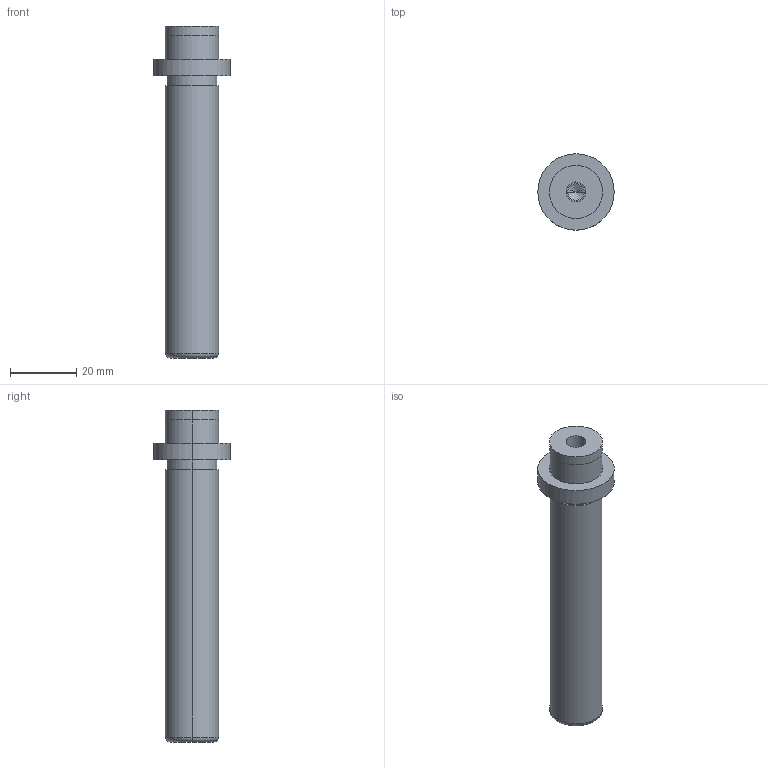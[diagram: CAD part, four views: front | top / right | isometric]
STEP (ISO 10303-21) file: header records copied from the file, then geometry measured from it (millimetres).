
FILE_DESCRIPTION(/* description */ (''),/* implementation_level */ '2;1');
FILE_NAME(/* name */ '3d_sgpw16-90_05283_r00.stp',/* time_stamp */ '2011-01-10T14:11:04+09:00',/* author */ ('MISUMI'),/* organization */ (''),/* preprocessor_version */ 'ST-DEVELOPER v11',/* originating_system */ 'UGS - NX 5.0',/* authorisation */ '');
FILE_SCHEMA (('CONFIG_CONTROL_DESIGN'));
Length unit declared in the file: millimetre
Products named in the file (1): 3d_sgpw16-90_05283_r00
Bounding box: 23 x 23 x 100 mm (x, y, z)
Volume: 20277.7 mm3; surface area: 6513.5 mm2
Topology: 1 solids, 1 shells, 31 faces, 64 edges, 38 vertices
Faces by surface type: cylinder 18, plane 7, cone 4, torus 2
Entity records: 890 total; most frequent: DIRECTION 162, CARTESIAN_POINT 130, ORIENTED_EDGE 120, AXIS2_PLACEMENT_3D 70, EDGE_CURVE 60, EDGE_LOOP 38, CIRCLE 38, VERTEX_POINT 38
